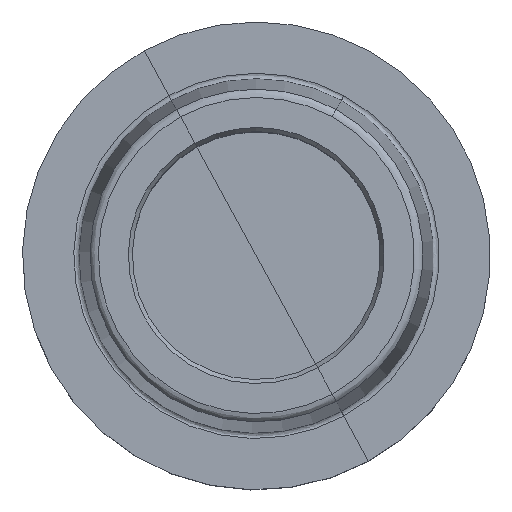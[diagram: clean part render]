
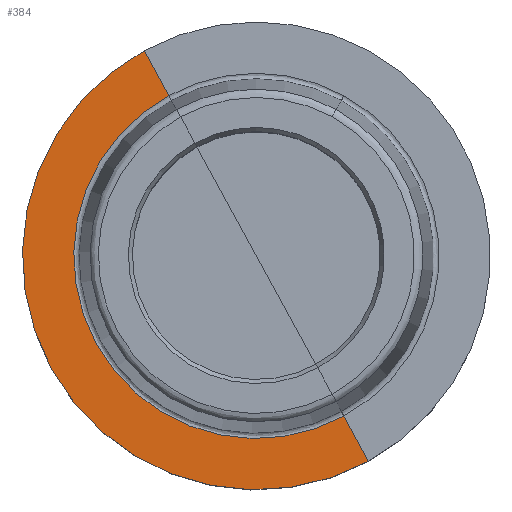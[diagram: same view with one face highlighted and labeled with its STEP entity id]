
A CAD part, top view. The second image highlights one B-rep face of the part: STEP entity #384.
In plain terms, the highlighted planar face has unit normal (0, 0, 1).
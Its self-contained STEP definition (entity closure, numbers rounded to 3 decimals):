
#334=AXIS2_PLACEMENT_3D('Circle Axis2P3D',#332,#333,$) ;
#357=AXIS2_PLACEMENT_3D('Plane Axis2P3D',#354,#355,#356) ;
#368=AXIS2_PLACEMENT_3D('Circle Axis2P3D',#366,#367,$) ;
#329=CARTESIAN_POINT('Vertex',(-18.715,34.257,0.)) ;
#332=CARTESIAN_POINT('Axis2P3D Location',(0.,0.,0.)) ;
#336=CARTESIAN_POINT('Vertex',(18.715,-34.257,0.)) ;
#354=CARTESIAN_POINT('Axis2P3D Location',(0.,-38.285,0.)) ;
#359=CARTESIAN_POINT('Line Origine',(-21.343,39.068,0.)) ;
#363=CARTESIAN_POINT('Vertex',(-23.971,43.879,0.)) ;
#366=CARTESIAN_POINT('Axis2P3D Location',(0.,0.,0.)) ;
#370=CARTESIAN_POINT('Vertex',(23.971,-43.879,0.)) ;
#373=CARTESIAN_POINT('Line Origine',(21.343,-39.068,0.)) ;
#333=DIRECTION('Axis2P3D Direction',(0.,0.,1.)) ;
#355=DIRECTION('Axis2P3D Direction',(0.,0.,-1.)) ;
#356=DIRECTION('Axis2P3D XDirection',(-1.,0.,0.)) ;
#360=DIRECTION('Vector Direction',(0.479,-0.878,0.)) ;
#367=DIRECTION('Axis2P3D Direction',(0.,0.,-1.)) ;
#374=DIRECTION('Vector Direction',(-0.479,0.878,0.)) ;
#361=VECTOR('Line Direction',#360,1.) ;
#375=VECTOR('Line Direction',#374,1.) ;
#379=ORIENTED_EDGE('',*,*,#338,.F.) ;
#380=ORIENTED_EDGE('',*,*,#365,.T.) ;
#381=ORIENTED_EDGE('',*,*,#372,.T.) ;
#382=ORIENTED_EDGE('',*,*,#377,.F.) ;
#384=ADVANCED_FACE('NOCUT',(#383),#358,.F.) ;
#335=CIRCLE('generated circle',#334,39.036) ;
#369=CIRCLE('generated circle',#368,50.) ;
#338=EDGE_CURVE('',#330,#337,#335,.T.) ;
#365=EDGE_CURVE('',#330,#364,#362,.F.) ;
#372=EDGE_CURVE('',#364,#371,#369,.F.) ;
#377=EDGE_CURVE('',#337,#371,#376,.F.) ;
#378=EDGE_LOOP('',(#379,#380,#381,#382)) ;
#383=FACE_OUTER_BOUND('',#378,.T.) ;
#362=LINE('Line',#359,#361) ;
#376=LINE('Line',#373,#375) ;
#358=PLANE('',#357) ;
#330=VERTEX_POINT('',#329) ;
#337=VERTEX_POINT('',#336) ;
#364=VERTEX_POINT('',#363) ;
#371=VERTEX_POINT('',#370) ;
